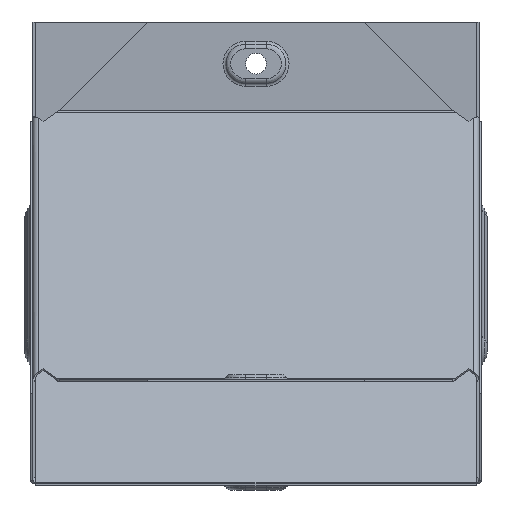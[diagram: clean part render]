
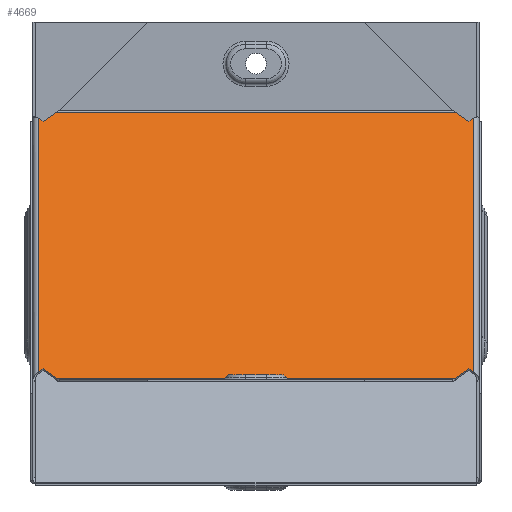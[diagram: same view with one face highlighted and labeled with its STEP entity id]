
A CAD part, front view. The second image highlights one B-rep face of the part: STEP entity #4669.
In plain terms, the highlighted planar face has unit normal (0, -0.707, 0.707).
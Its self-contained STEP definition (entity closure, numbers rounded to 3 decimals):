
#36 = ORIENTED_EDGE ( 'NONE', *, *, #7076, .T. ) ;
#113 = VECTOR ( 'NONE', #1002, 1000. ) ;
#167 = DIRECTION ( 'NONE',  ( 0., 0.707, 0.707 ) ) ;
#203 = VERTEX_POINT ( 'NONE', #2355 ) ;
#219 = DIRECTION ( 'NONE',  ( 0., 0.707, -0.707 ) ) ;
#406 = VECTOR ( 'NONE', #1592, 1000. ) ;
#416 = VECTOR ( 'NONE', #4389, 1000. ) ;
#420 = CARTESIAN_POINT ( 'NONE',  ( -36.546, -51.369, -81.369 ) ) ;
#463 = VECTOR ( 'NONE', #1733, 1000. ) ;
#501 = LINE ( 'NONE', #1497, #4176 ) ;
#621 = VECTOR ( 'NONE', #5421, 1000. ) ;
#792 = VERTEX_POINT ( 'NONE', #7099 ) ;
#815 = CARTESIAN_POINT ( 'NONE',  ( -75.299, 59.208, 29.208 ) ) ;
#960 = LINE ( 'NONE', #420, #406 ) ;
#1002 = DIRECTION ( 'NONE',  ( 0., -0.707, -0.707 ) ) ;
#1041 = VERTEX_POINT ( 'NONE', #7551 ) ;
#1304 = VECTOR ( 'NONE', #3394, 1000. ) ;
#1386 = LINE ( 'NONE', #5284, #4714 ) ;
#1475 = VERTEX_POINT ( 'NONE', #6993 ) ;
#1497 = CARTESIAN_POINT ( 'NONE',  ( -36.546, 81.369, 51.369 ) ) ;
#1592 = DIRECTION ( 'NONE',  ( 0.707, -0.5, -0.5 ) ) ;
#1619 = LINE ( 'NONE', #4656, #621 ) ;
#1683 = LINE ( 'NONE', #3940, #113 ) ;
#1712 = VECTOR ( 'NONE', #2677, 1000. ) ;
#1733 = DIRECTION ( 'NONE',  ( 0.707, -0.5, -0.5 ) ) ;
#1866 = CARTESIAN_POINT ( 'NONE',  ( 67.181, 59.707, 29.707 ) ) ;
#1899 = LINE ( 'NONE', #6191, #1712 ) ;
#2141 = DIRECTION ( 'NONE',  ( 0.707, 0.5, 0.5 ) ) ;
#2246 = CARTESIAN_POINT ( 'NONE',  ( 67.181, -29.707, -59.707 ) ) ;
#2255 = DIRECTION ( 'NONE',  ( -1., 0., 0. ) ) ;
#2256 = LINE ( 'NONE', #6111, #416 ) ;
#2355 = CARTESIAN_POINT ( 'NONE',  ( 73.2, -27.724, -57.724 ) ) ;
#2369 = DIRECTION ( 'NONE',  ( 0., -0.707, -0.707 ) ) ;
#2463 = VERTEX_POINT ( 'NONE', #5405 ) ;
#2488 = ORIENTED_EDGE ( 'NONE', *, *, #4952, .F. ) ;
#2516 = EDGE_CURVE ( 'NONE', #1041, #4067, #2256, .T. ) ;
#2555 = DIRECTION ( 'NONE',  ( -0.707, 0.5, 0.5 ) ) ;
#2649 = EDGE_CURVE ( 'NONE', #6018, #2463, #2826, .T. ) ;
#2677 = DIRECTION ( 'NONE',  ( -0.707, 0.5, 0.5 ) ) ;
#2728 = VERTEX_POINT ( 'NONE', #2246 ) ;
#2826 = LINE ( 'NONE', #3941, #7217 ) ;
#2855 = ORIENTED_EDGE ( 'NONE', *, *, #5504, .T. ) ;
#3088 = EDGE_CURVE ( 'NONE', #1475, #792, #4356, .T. ) ;
#3111 = ORIENTED_EDGE ( 'NONE', *, *, #5114, .T. ) ;
#3153 = EDGE_LOOP ( 'NONE', ( #4908, #4473, #2855, #5473, #3346, #4649, #6404, #36, #2488, #4252, #3111, #7149 ) ) ;
#3341 = CARTESIAN_POINT ( 'NONE',  ( -67.181, 59.707, 29.707 ) ) ;
#3346 = ORIENTED_EDGE ( 'NONE', *, *, #3088, .T. ) ;
#3394 = DIRECTION ( 'NONE',  ( -1., 0., 0. ) ) ;
#3449 = CARTESIAN_POINT ( 'NONE',  ( 73.2, 59.707, 29.707 ) ) ;
#3634 = VECTOR ( 'NONE', #2555, 1000. ) ;
#3637 = CARTESIAN_POINT ( 'NONE',  ( -67.181, -29.707, -59.707 ) ) ;
#3639 = CARTESIAN_POINT ( 'NONE',  ( 71.592, -26.588, -56.588 ) ) ;
#3690 = CARTESIAN_POINT ( 'NONE',  ( 73.2, 60., 30. ) ) ;
#3940 = CARTESIAN_POINT ( 'NONE',  ( -73.2, 60., 30. ) ) ;
#3941 = CARTESIAN_POINT ( 'NONE',  ( -75.299, -29.208, -59.208 ) ) ;
#4062 = LINE ( 'NONE', #7560, #463 ) ;
#4067 = VERTEX_POINT ( 'NONE', #4926 ) ;
#4158 = LINE ( 'NONE', #6842, #1304 ) ;
#4176 = VECTOR ( 'NONE', #6225, 1000. ) ;
#4252 = ORIENTED_EDGE ( 'NONE', *, *, #6406, .T. ) ;
#4308 = VECTOR ( 'NONE', #2255, 1000. ) ;
#4336 = EDGE_CURVE ( 'NONE', #792, #6018, #1683, .T. ) ;
#4356 = LINE ( 'NONE', #815, #3634 ) ;
#4389 = DIRECTION ( 'NONE',  ( -0.707, -0.5, -0.5 ) ) ;
#4473 = ORIENTED_EDGE ( 'NONE', *, *, #6860, .T. ) ;
#4649 = ORIENTED_EDGE ( 'NONE', *, *, #4336, .T. ) ;
#4656 = CARTESIAN_POINT ( 'NONE',  ( 36.546, -51.369, -81.369 ) ) ;
#4669 = ADVANCED_FACE ( 'NONE', ( #6817 ), #6608, .F. ) ;
#4706 = EDGE_CURVE ( 'NONE', #1041, #203, #1386, .T. ) ;
#4714 = VECTOR ( 'NONE', #2369, 1000. ) ;
#4810 = VERTEX_POINT ( 'NONE', #1866 ) ;
#4908 = ORIENTED_EDGE ( 'NONE', *, *, #2516, .T. ) ;
#4926 = CARTESIAN_POINT ( 'NONE',  ( 71.592, 56.588, 26.588 ) ) ;
#4952 = EDGE_CURVE ( 'NONE', #2728, #6724, #4158, .T. ) ;
#5071 = CARTESIAN_POINT ( 'NONE',  ( -73.2, -27.724, -57.724 ) ) ;
#5114 = EDGE_CURVE ( 'NONE', #6492, #203, #4062, .T. ) ;
#5284 = CARTESIAN_POINT ( 'NONE',  ( 73.2, 60., 30. ) ) ;
#5405 = CARTESIAN_POINT ( 'NONE',  ( -71.592, -26.588, -56.588 ) ) ;
#5421 = DIRECTION ( 'NONE',  ( 0.707, 0.5, 0.5 ) ) ;
#5473 = ORIENTED_EDGE ( 'NONE', *, *, #7490, .T. ) ;
#5504 = EDGE_CURVE ( 'NONE', #4810, #6902, #6450, .T. ) ;
#6018 = VERTEX_POINT ( 'NONE', #5071 ) ;
#6111 = CARTESIAN_POINT ( 'NONE',  ( 75.299, 59.208, 29.208 ) ) ;
#6191 = CARTESIAN_POINT ( 'NONE',  ( 36.546, 81.369, 51.369 ) ) ;
#6225 = DIRECTION ( 'NONE',  ( -0.707, -0.5, -0.5 ) ) ;
#6404 = ORIENTED_EDGE ( 'NONE', *, *, #2649, .T. ) ;
#6406 = EDGE_CURVE ( 'NONE', #2728, #6492, #1619, .T. ) ;
#6450 = LINE ( 'NONE', #3449, #4308 ) ;
#6492 = VERTEX_POINT ( 'NONE', #3639 ) ;
#6608 = PLANE ( 'NONE',  #6781 ) ;
#6724 = VERTEX_POINT ( 'NONE', #3637 ) ;
#6781 = AXIS2_PLACEMENT_3D ( 'NONE', #3690, #219, #167 ) ;
#6817 = FACE_OUTER_BOUND ( 'NONE', #3153, .T. ) ;
#6842 = CARTESIAN_POINT ( 'NONE',  ( 73.2, -29.707, -59.707 ) ) ;
#6860 = EDGE_CURVE ( 'NONE', #4067, #4810, #1899, .T. ) ;
#6902 = VERTEX_POINT ( 'NONE', #3341 ) ;
#6993 = CARTESIAN_POINT ( 'NONE',  ( -71.592, 56.588, 26.588 ) ) ;
#7076 = EDGE_CURVE ( 'NONE', #2463, #6724, #960, .T. ) ;
#7099 = CARTESIAN_POINT ( 'NONE',  ( -73.2, 57.724, 27.724 ) ) ;
#7149 = ORIENTED_EDGE ( 'NONE', *, *, #4706, .F. ) ;
#7217 = VECTOR ( 'NONE', #2141, 1000. ) ;
#7490 = EDGE_CURVE ( 'NONE', #6902, #1475, #501, .T. ) ;
#7551 = CARTESIAN_POINT ( 'NONE',  ( 73.2, 57.724, 27.724 ) ) ;
#7560 = CARTESIAN_POINT ( 'NONE',  ( 75.299, -29.208, -59.208 ) ) ;
